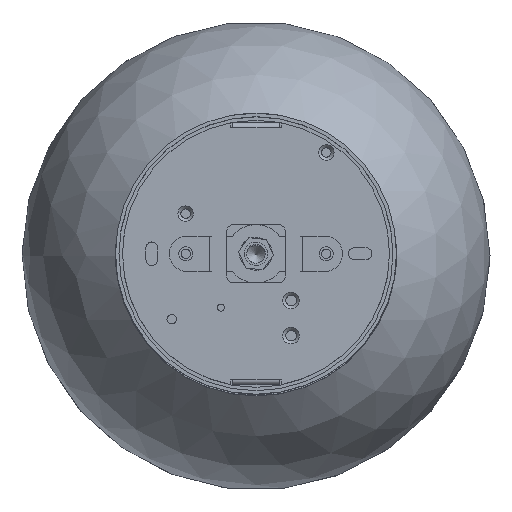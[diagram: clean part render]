
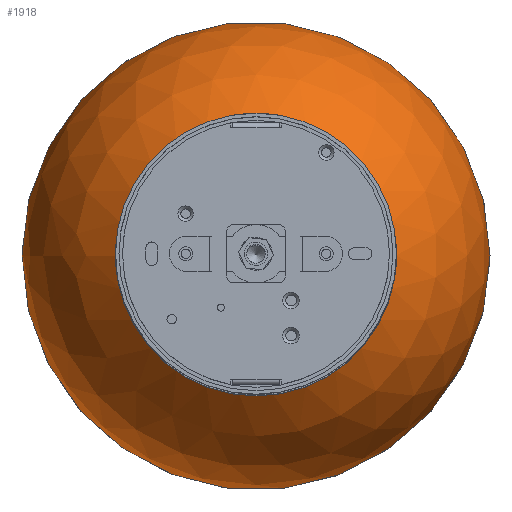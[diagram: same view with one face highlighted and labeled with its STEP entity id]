
A CAD part, top view. The second image highlights one B-rep face of the part: STEP entity #1918.
In plain terms, the highlighted spherical face has radius 100 mm.
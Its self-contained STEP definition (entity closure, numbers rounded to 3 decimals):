
#1918 = ADVANCED_FACE( '', ( #3469, #3470 ), #3471, .T. );
#3469 = FACE_OUTER_BOUND( '', #6200, .T. );
#3470 = FACE_OUTER_BOUND( '', #6201, .T. );
#3471 = SPHERICAL_SURFACE( '', #6202, 100. );
#6200 = EDGE_LOOP( '', ( #8846 ) );
#6201 = EDGE_LOOP( '', ( #8847 ) );
#6202 = AXIS2_PLACEMENT_3D( '', #8848, #8849, #8850 );
#8846 = ORIENTED_EDGE( '', *, *, #11899, .F. );
#8847 = ORIENTED_EDGE( '', *, *, #11900, .F. );
#8848 = CARTESIAN_POINT( '', ( 0., 0., -87. ) );
#8849 = DIRECTION( '', ( 0., 0., -1. ) );
#8850 = DIRECTION( '', ( -1., 0., 0. ) );
#11899 = EDGE_CURVE( '', #13606, #13606, #13607, .F. );
#11900 = EDGE_CURVE( '', #13608, #13608, #13609, .T. );
#13606 = VERTEX_POINT( '', #17124 );
#13607 = CIRCLE( '', #17125, 15.5 );
#13608 = VERTEX_POINT( '', #17126 );
#13609 = CIRCLE( '', #17127, 86.603 );
#17124 = CARTESIAN_POINT( '', ( -15.5, 0., 11.791 ) );
#17125 = AXIS2_PLACEMENT_3D( '', #19164, #19165, #19166 );
#17126 = CARTESIAN_POINT( '', ( -86.603, 0., -137. ) );
#17127 = AXIS2_PLACEMENT_3D( '', #19167, #19168, #19169 );
#19164 = CARTESIAN_POINT( '', ( 0., 0., 11.791 ) );
#19165 = DIRECTION( '', ( 0., 0., -1. ) );
#19166 = DIRECTION( '', ( -1., 0., 0. ) );
#19167 = CARTESIAN_POINT( '', ( 0., 0., -137. ) );
#19168 = DIRECTION( '', ( 0., 0., -1. ) );
#19169 = DIRECTION( '', ( -1., 0., 0. ) );
